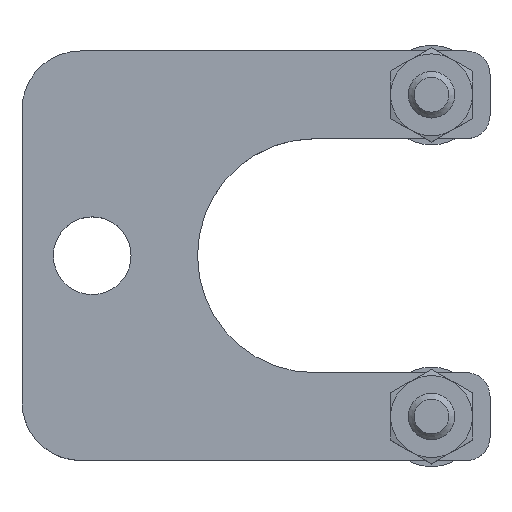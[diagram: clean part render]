
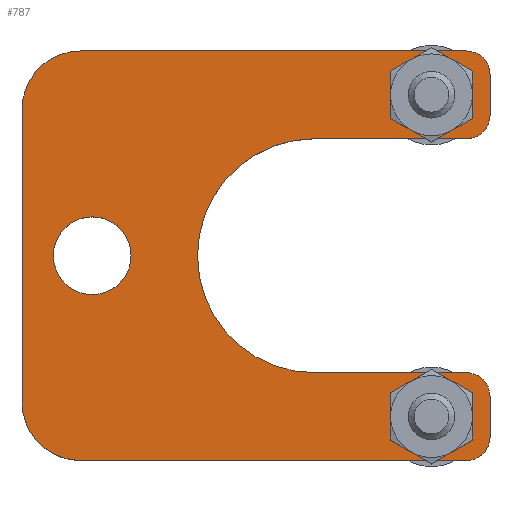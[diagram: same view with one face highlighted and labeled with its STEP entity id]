
A CAD part, top view. The second image highlights one B-rep face of the part: STEP entity #787.
In plain terms, the highlighted planar face has unit normal (0, 0, 1).
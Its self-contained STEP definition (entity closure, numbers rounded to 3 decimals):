
#115=FACE_BOUND('',#227,.T.);
#116=FACE_BOUND('',#228,.T.);
#117=FACE_BOUND('',#229,.T.);
#136=PLANE('',#863);
#169=FACE_OUTER_BOUND('',#226,.T.);
#226=EDGE_LOOP('',(#632,#633,#634,#635,#636,#637,#638,#639,#640,#641,#642,
#643,#644,#645));
#227=EDGE_LOOP('',(#646));
#228=EDGE_LOOP('',(#647));
#229=EDGE_LOOP('',(#648));
#276=LINE('',#1212,#310);
#285=LINE('',#1250,#319);
#289=LINE('',#1260,#323);
#292=LINE('',#1268,#326);
#295=LINE('',#1277,#329);
#297=LINE('',#1292,#331);
#299=LINE('',#1297,#333);
#310=VECTOR('',#951,3.5);
#319=VECTOR('',#986,13.);
#323=VECTOR('',#996,3.5);
#326=VECTOR('',#1005,33.);
#329=VECTOR('',#1014,25.);
#331=VECTOR('',#1034,13.);
#333=VECTOR('',#1042,33.);
#341=CIRCLE('',#827,2.);
#351=CIRCLE('',#840,2.);
#352=CIRCLE('',#843,2.);
#353=CIRCLE('',#846,2.);
#354=CIRCLE('',#849,5.);
#355=CIRCLE('',#852,5.);
#356=CIRCLE('',#854,1.621);
#357=CIRCLE('',#856,1.621);
#358=CIRCLE('',#858,3.324);
#359=CIRCLE('',#861,10.);
#385=VERTEX_POINT('',#1202);
#386=VERTEX_POINT('',#1204);
#388=VERTEX_POINT('',#1210);
#403=VERTEX_POINT('',#1244);
#404=VERTEX_POINT('',#1248);
#405=VERTEX_POINT('',#1252);
#406=VERTEX_POINT('',#1254);
#407=VERTEX_POINT('',#1258);
#408=VERTEX_POINT('',#1262);
#409=VERTEX_POINT('',#1266);
#410=VERTEX_POINT('',#1270);
#411=VERTEX_POINT('',#1272);
#412=VERTEX_POINT('',#1276);
#413=VERTEX_POINT('',#1282);
#414=VERTEX_POINT('',#1285);
#415=VERTEX_POINT('',#1288);
#416=VERTEX_POINT('',#1291);
#454=EDGE_CURVE('',#385,#386,#341,.T.);
#458=EDGE_CURVE('',#385,#388,#276,.T.);
#475=EDGE_CURVE('',#403,#388,#351,.T.);
#477=EDGE_CURVE('',#403,#404,#285,.T.);
#479=EDGE_CURVE('',#405,#406,#352,.T.);
#482=EDGE_CURVE('',#405,#407,#289,.T.);
#484=EDGE_CURVE('',#408,#407,#353,.T.);
#486=EDGE_CURVE('',#408,#409,#292,.T.);
#488=EDGE_CURVE('',#410,#411,#354,.T.);
#490=EDGE_CURVE('',#412,#411,#295,.T.);
#492=EDGE_CURVE('',#412,#409,#355,.T.);
#493=EDGE_CURVE('',#413,#413,#356,.T.);
#494=EDGE_CURVE('',#414,#414,#357,.T.);
#495=EDGE_CURVE('',#415,#415,#358,.T.);
#496=EDGE_CURVE('',#416,#406,#297,.T.);
#498=EDGE_CURVE('',#404,#416,#359,.T.);
#499=EDGE_CURVE('',#410,#386,#299,.T.);
#632=ORIENTED_EDGE('',*,*,#454,.F.);
#633=ORIENTED_EDGE('',*,*,#458,.T.);
#634=ORIENTED_EDGE('',*,*,#475,.F.);
#635=ORIENTED_EDGE('',*,*,#477,.T.);
#636=ORIENTED_EDGE('',*,*,#498,.T.);
#637=ORIENTED_EDGE('',*,*,#496,.T.);
#638=ORIENTED_EDGE('',*,*,#479,.F.);
#639=ORIENTED_EDGE('',*,*,#482,.T.);
#640=ORIENTED_EDGE('',*,*,#484,.F.);
#641=ORIENTED_EDGE('',*,*,#486,.T.);
#642=ORIENTED_EDGE('',*,*,#492,.F.);
#643=ORIENTED_EDGE('',*,*,#490,.T.);
#644=ORIENTED_EDGE('',*,*,#488,.F.);
#645=ORIENTED_EDGE('',*,*,#499,.T.);
#646=ORIENTED_EDGE('',*,*,#493,.T.);
#647=ORIENTED_EDGE('',*,*,#494,.T.);
#648=ORIENTED_EDGE('',*,*,#495,.T.);
#787=ADVANCED_FACE('',(#169,#115,#116,#117),#136,.T.);
#827=AXIS2_PLACEMENT_3D('',#1205,#944,#945);
#840=AXIS2_PLACEMENT_3D('',#1246,#981,#982);
#843=AXIS2_PLACEMENT_3D('',#1255,#990,#991);
#846=AXIS2_PLACEMENT_3D('',#1264,#1000,#1001);
#849=AXIS2_PLACEMENT_3D('',#1273,#1009,#1010);
#852=AXIS2_PLACEMENT_3D('',#1280,#1018,#1019);
#854=AXIS2_PLACEMENT_3D('',#1283,#1022,#1023);
#856=AXIS2_PLACEMENT_3D('',#1286,#1026,#1027);
#858=AXIS2_PLACEMENT_3D('',#1289,#1030,#1031);
#861=AXIS2_PLACEMENT_3D('',#1295,#1038,#1039);
#863=AXIS2_PLACEMENT_3D('',#1298,#1043,#1044);
#944=DIRECTION('center_axis',(0.,0.,-1.));
#945=DIRECTION('ref_axis',(0.707,-0.707,0.));
#951=DIRECTION('',(0.,1.,0.));
#981=DIRECTION('center_axis',(0.,0.,-1.));
#982=DIRECTION('ref_axis',(0.707,0.707,0.));
#986=DIRECTION('',(-1.,0.,0.));
#990=DIRECTION('center_axis',(0.,0.,-1.));
#991=DIRECTION('ref_axis',(0.707,-0.707,0.));
#996=DIRECTION('',(0.,1.,0.));
#1000=DIRECTION('center_axis',(0.,0.,-1.));
#1001=DIRECTION('ref_axis',(0.707,0.707,0.));
#1005=DIRECTION('',(-1.,0.,0.));
#1009=DIRECTION('center_axis',(0.,0.,-1.));
#1010=DIRECTION('ref_axis',(-0.707,-0.707,0.));
#1014=DIRECTION('',(0.,-1.,0.));
#1018=DIRECTION('center_axis',(0.,0.,-1.));
#1019=DIRECTION('ref_axis',(-0.707,0.707,0.));
#1022=DIRECTION('center_axis',(0.,0.,-1.));
#1023=DIRECTION('ref_axis',(1.,0.,0.));
#1026=DIRECTION('center_axis',(0.,0.,-1.));
#1027=DIRECTION('ref_axis',(1.,0.,0.));
#1030=DIRECTION('center_axis',(0.,0.,-1.));
#1031=DIRECTION('ref_axis',(1.,0.,0.));
#1034=DIRECTION('',(1.,0.,0.));
#1038=DIRECTION('center_axis',(0.,0.,-1.));
#1039=DIRECTION('ref_axis',(0.,1.,0.));
#1042=DIRECTION('',(1.,0.,0.));
#1043=DIRECTION('center_axis',(0.,0.,1.));
#1044=DIRECTION('ref_axis',(1.,0.,0.));
#1202=CARTESIAN_POINT('',(40.,-15.5,2.5));
#1204=CARTESIAN_POINT('',(38.,-17.5,2.5));
#1205=CARTESIAN_POINT('Origin',(38.,-15.5,2.5));
#1210=CARTESIAN_POINT('',(40.,-12.,2.5));
#1212=CARTESIAN_POINT('',(40.,-10.,2.5));
#1244=CARTESIAN_POINT('',(38.,-10.,2.5));
#1246=CARTESIAN_POINT('Origin',(38.,-12.,2.5));
#1248=CARTESIAN_POINT('',(25.,-10.,2.5));
#1250=CARTESIAN_POINT('',(25.,-10.,2.5));
#1252=CARTESIAN_POINT('',(40.,12.,2.5));
#1254=CARTESIAN_POINT('',(38.,10.,2.5));
#1255=CARTESIAN_POINT('Origin',(38.,12.,2.5));
#1258=CARTESIAN_POINT('',(40.,15.5,2.5));
#1260=CARTESIAN_POINT('',(40.,17.5,2.5));
#1262=CARTESIAN_POINT('',(38.,17.5,2.5));
#1264=CARTESIAN_POINT('Origin',(38.,15.5,2.5));
#1266=CARTESIAN_POINT('',(5.,17.5,2.5));
#1268=CARTESIAN_POINT('',(0.,17.5,2.5));
#1270=CARTESIAN_POINT('',(5.,-17.5,2.5));
#1272=CARTESIAN_POINT('',(0.,-12.5,2.5));
#1273=CARTESIAN_POINT('Origin',(5.,-12.5,2.5));
#1276=CARTESIAN_POINT('',(0.,12.5,2.5));
#1277=CARTESIAN_POINT('',(0.,-17.5,2.5));
#1280=CARTESIAN_POINT('Origin',(5.,12.5,2.5));
#1282=CARTESIAN_POINT('',(36.621,13.75,2.5));
#1283=CARTESIAN_POINT('Origin',(35.,13.75,2.5));
#1285=CARTESIAN_POINT('',(36.621,-13.75,2.5));
#1286=CARTESIAN_POINT('Origin',(35.,-13.75,2.5));
#1288=CARTESIAN_POINT('',(9.324,0.,2.5));
#1289=CARTESIAN_POINT('Origin',(6.,0.,2.5));
#1291=CARTESIAN_POINT('',(25.,10.,2.5));
#1292=CARTESIAN_POINT('',(40.,10.,2.5));
#1295=CARTESIAN_POINT('Origin',(25.,0.,2.5));
#1297=CARTESIAN_POINT('',(40.,-17.5,2.5));
#1298=CARTESIAN_POINT('Origin',(19.688,0.,2.5));
